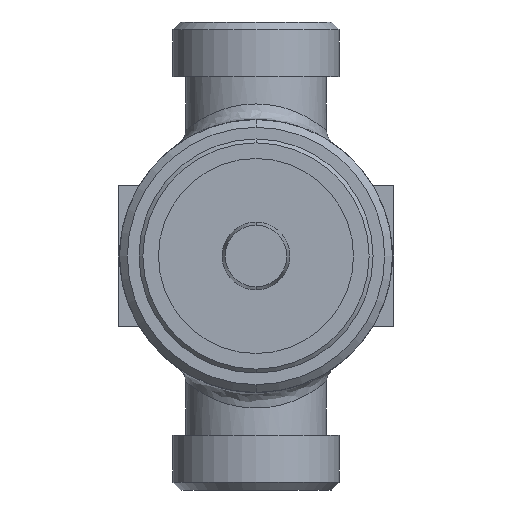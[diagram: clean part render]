
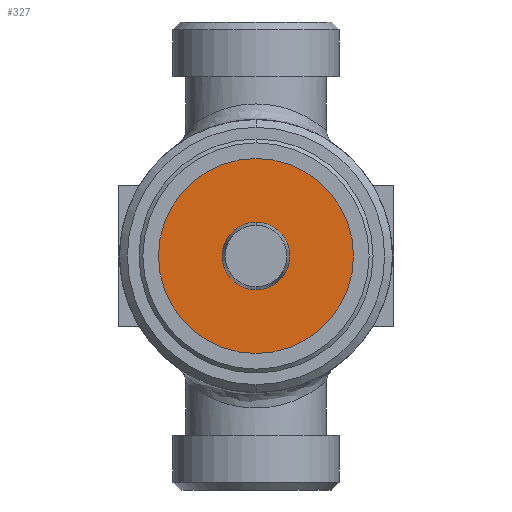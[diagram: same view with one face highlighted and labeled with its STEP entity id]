
A CAD part, front view. The second image highlights one B-rep face of the part: STEP entity #327.
In plain terms, the highlighted planar face has unit normal (0, -1, 0).
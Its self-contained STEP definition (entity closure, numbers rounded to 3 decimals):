
#257=CARTESIAN_POINT('',(0.0,-36.0,17.5));
#258=VERTEX_POINT('',#257);
#267=CARTESIAN_POINT('',(0.,-36.0,42.5));
#268=VERTEX_POINT('',#267);
#269=CARTESIAN_POINT('',(0.0,-36.0,30.));
#270=DIRECTION('',(0.0,-1.0,0.0));
#271=DIRECTION('',(0.0,0.0,-1.0));
#272=AXIS2_PLACEMENT_3D('',#269,#270,#271);
#273=CIRCLE('',#272,12.5);
#274=EDGE_CURVE('',#268,#258,#273,.T.);
#308=CARTESIAN_POINT('',(0.0,-36.0,30.));
#309=DIRECTION('',(0.0,-1.0,0.0));
#310=DIRECTION('',(0.0,0.0,-1.0));
#311=AXIS2_PLACEMENT_3D('',#308,#309,#310);
#312=CIRCLE('',#311,12.5);
#313=EDGE_CURVE('',#258,#268,#312,.T.);
#318=CARTESIAN_POINT('',(0.0,-36.0,30.));
#319=DIRECTION('',(0.0,-1.0,0.0));
#320=DIRECTION('',(0.0,0.0,1.0));
#321=AXIS2_PLACEMENT_3D('',#318,#319,#320);
#322=PLANE('',#321);
#323=ORIENTED_EDGE('',*,*,#313,.T.);
#324=ORIENTED_EDGE('',*,*,#274,.T.);
#325=EDGE_LOOP('',(#323,#324));
#326=FACE_OUTER_BOUND('',#325,.T.);
#327=ADVANCED_FACE('',(#326),#322,.T.);
